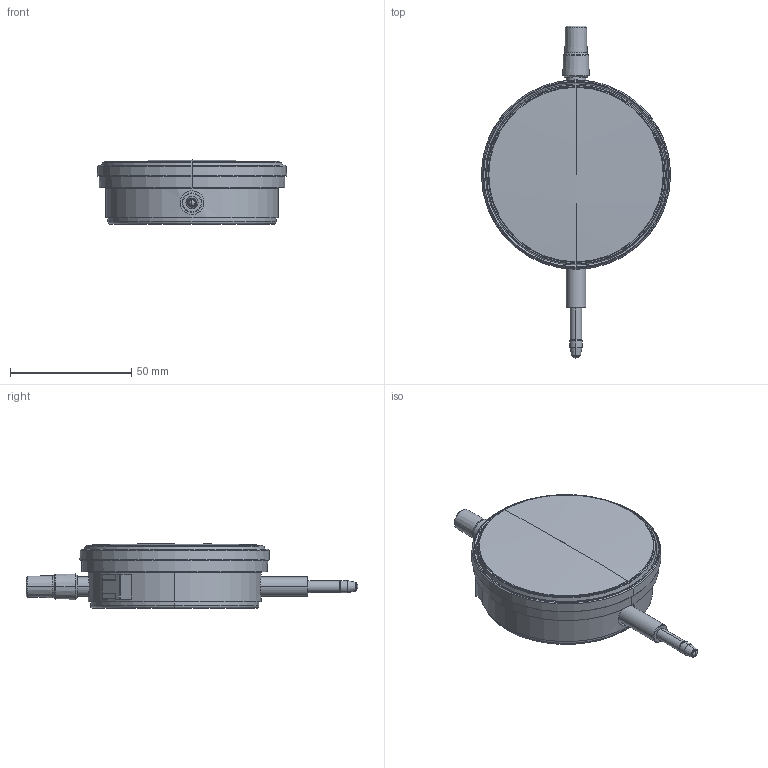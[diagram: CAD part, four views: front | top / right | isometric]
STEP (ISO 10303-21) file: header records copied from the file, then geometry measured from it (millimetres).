
FILE_DESCRIPTION(('Creo Elements/Direct Modeling STEP Export'),'2;1');
FILE_NAME('3047SB.stp','2020-03-23T11:05:18',(''),(''),'Creo Elements/Direct Modeling STEP processor for AP214 (Solid Model)','Creo Elements/Direct Modeling 18.1I 13-Aug-2016 (C) Parametric Technology GmbH','');
FILE_SCHEMA(('AUTOMOTIVE_DESIGN { 1 0 10303 214 1 1 1 1 }'));
Length unit declared in the file: millimetre
Products named in the file (2): 3047SB
Assembly tree (1 placements, depth 2):
  3047SB
    3047SB
Bounding box: 77.99 x 136.7 x 26.6 mm (x, y, z)
Volume: 114258.6 mm3; surface area: 17316.3 mm2
Topology: 1 solids, 1 shells, 130 faces, 309 edges, 193 vertices
Faces by surface type: plane 42, cylinder 38, cone 32, torus 14, sphere 4
Entity records: 4586 total; most frequent: CARTESIAN_POINT 1711, ORIENTED_EDGE 610, DIRECTION 574, EDGE_CURVE 305, AXIS2_PLACEMENT_3D 221, VERTEX_POINT 193, EDGE_LOOP 146, VECTOR 132
